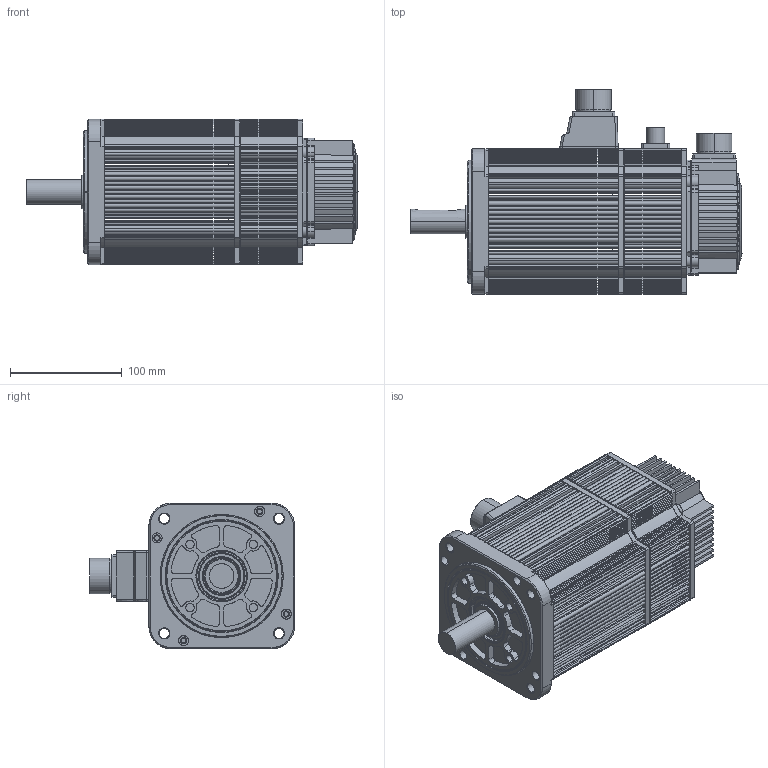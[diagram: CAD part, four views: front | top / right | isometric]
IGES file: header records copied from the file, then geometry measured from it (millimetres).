
Start section: SolidWorks IGES file using analytic representation for surfaces
Global section: file name: E:\est2012\d\17年任务\2017.01.04 外海需求电机3D图升级归档\EMG-15APA24\EMG-15(APB24,ASB24)with holding brake.IGS,15HSolidWorks; native system: 2015; preprocessor: SolidWorks 2015; author: hongyunting; date: 170106.093138; units: millimetre
Bounding box: 296.7 x 183 x 130 mm (x, y, z)
Surface area: 261469.9 mm2 (no closed solid volume)
Topology: 0 solids, 0 shells, 1491 faces, 20086 edges, 20086 vertices
Faces by surface type: revolution 797, bspline 694
